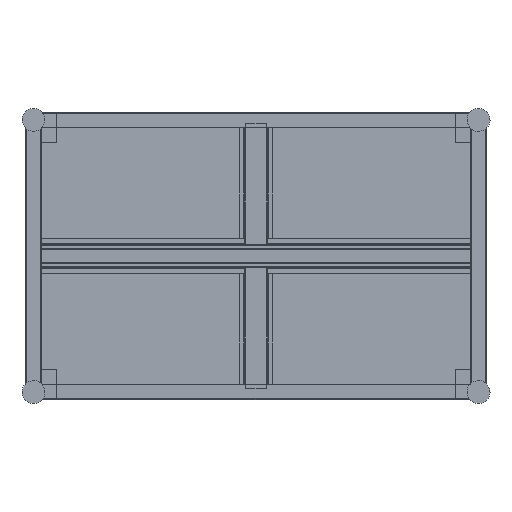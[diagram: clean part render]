
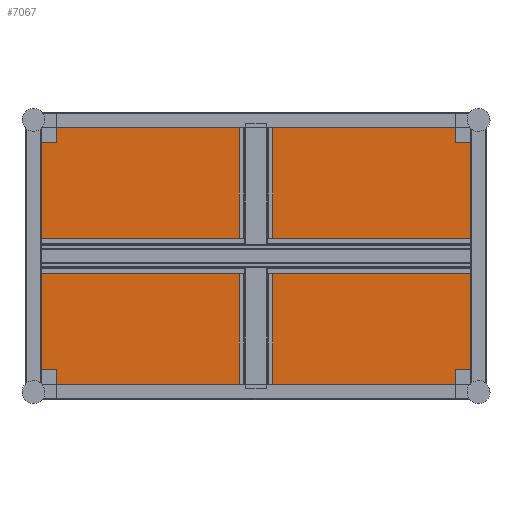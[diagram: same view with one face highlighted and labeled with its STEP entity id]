
A CAD part, front view. The second image highlights one B-rep face of the part: STEP entity #7067.
In plain terms, the highlighted planar face has unit normal (0, -1, 0) as drawn and (0, 0, -1) by its records, which use the part's own axes.
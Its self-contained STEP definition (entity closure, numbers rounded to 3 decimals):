
#166 = ORIENTED_EDGE ( 'NONE', *, *, #3523, .F. ) ;
#205 = CARTESIAN_POINT ( 'NONE',  ( -597., -372., -1.5 ) ) ;
#623 = VERTEX_POINT ( 'NONE', #1093 ) ;
#864 = FACE_OUTER_BOUND ( 'NONE', #4506, .T. ) ;
#1093 = CARTESIAN_POINT ( 'NONE',  ( 597., -372., -1.5 ) ) ;
#1363 = CARTESIAN_POINT ( 'NONE',  ( 598.146, 372., -1.5 ) ) ;
#1789 = VECTOR ( 'NONE', #7153, 1000. ) ;
#1876 = CARTESIAN_POINT ( 'NONE',  ( -598.146, -372., -1.5 ) ) ;
#2329 = EDGE_CURVE ( 'NONE', #623, #10263, #9657, .T. ) ;
#3183 = DIRECTION ( 'NONE',  ( 0., -1., 0. ) ) ;
#3523 = EDGE_CURVE ( 'NONE', #10263, #7244, #8154, .T. ) ;
#3712 = DIRECTION ( 'NONE',  ( 0., 0., 1. ) ) ;
#3900 = CARTESIAN_POINT ( 'NONE',  ( 0., 0., -1.5 ) ) ;
#4047 = VECTOR ( 'NONE', #3183, 1000. ) ;
#4326 = ORIENTED_EDGE ( 'NONE', *, *, #6830, .F. ) ;
#4506 = EDGE_LOOP ( 'NONE', ( #5578, #4326, #9959, #166 ) ) ;
#4916 = VECTOR ( 'NONE', #5730, 1000. ) ;
#4944 = PLANE ( 'NONE',  #11294 ) ;
#5578 = ORIENTED_EDGE ( 'NONE', *, *, #2329, .F. ) ;
#5730 = DIRECTION ( 'NONE',  ( 0., 1., 0. ) ) ;
#5889 = DIRECTION ( 'NONE',  ( 1., 0., 0. ) ) ;
#6195 = CARTESIAN_POINT ( 'NONE',  ( -597., 373.146, -1.5 ) ) ;
#6642 = VECTOR ( 'NONE', #5889, 1000. ) ;
#6830 = EDGE_CURVE ( 'NONE', #8083, #623, #10926, .T. ) ;
#6862 = DIRECTION ( 'NONE',  ( 1., 0., 0. ) ) ;
#7067 = ADVANCED_FACE ( 'NONE', ( #864 ), #4944, .F. ) ;
#7153 = DIRECTION ( 'NONE',  ( -1., 0., 0. ) ) ;
#7244 = VERTEX_POINT ( 'NONE', #12159 ) ;
#7341 = CARTESIAN_POINT ( 'NONE',  ( 597., 372., -1.5 ) ) ;
#7921 = EDGE_CURVE ( 'NONE', #7244, #8083, #11163, .T. ) ;
#8083 = VERTEX_POINT ( 'NONE', #205 ) ;
#8154 = LINE ( 'NONE', #1363, #1789 ) ;
#9657 = LINE ( 'NONE', #10828, #4916 ) ;
#9959 = ORIENTED_EDGE ( 'NONE', *, *, #7921, .F. ) ;
#10263 = VERTEX_POINT ( 'NONE', #7341 ) ;
#10828 = CARTESIAN_POINT ( 'NONE',  ( 597., -373.146, -1.5 ) ) ;
#10926 = LINE ( 'NONE', #1876, #6642 ) ;
#11163 = LINE ( 'NONE', #6195, #4047 ) ;
#11294 = AXIS2_PLACEMENT_3D ( 'NONE', #3900, #3712, #6862 ) ;
#12159 = CARTESIAN_POINT ( 'NONE',  ( -597., 372., -1.5 ) ) ;
